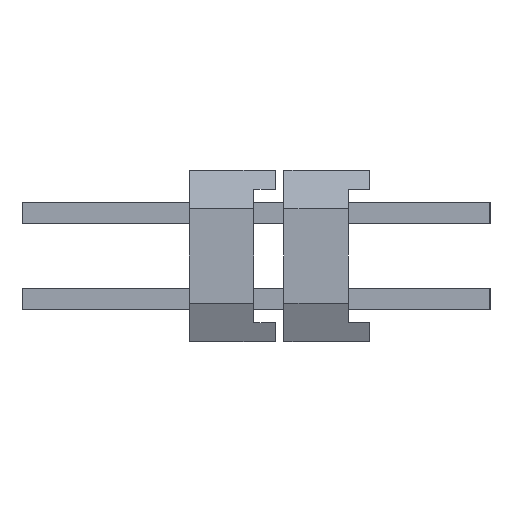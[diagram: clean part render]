
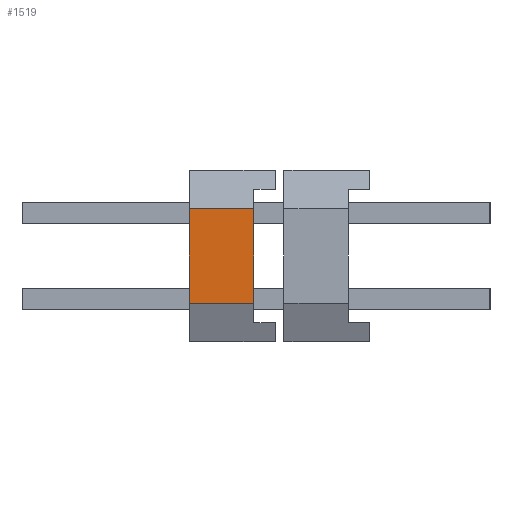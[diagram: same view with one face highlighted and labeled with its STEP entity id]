
A CAD part, left-side view. The second image highlights one B-rep face of the part: STEP entity #1519.
In plain terms, the highlighted planar face has unit normal (-1, 0, 0).
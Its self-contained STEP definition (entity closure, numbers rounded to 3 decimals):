
#112 = ORIENTED_EDGE ( 'NONE', *, *, #7677, .F. ) ;
#257 = FACE_OUTER_BOUND ( 'NONE', #18143, .T. ) ;
#354 = PLANE ( 'NONE',  #8959 ) ;
#538 = DIRECTION ( 'NONE',  ( 1., 0., 0. ) ) ;
#703 = DIRECTION ( 'NONE',  ( 0., 0., -1. ) ) ;
#944 = EDGE_CURVE ( 'NONE', #9337, #8704, #2864, .T. ) ;
#1005 = CARTESIAN_POINT ( 'NONE',  ( -2.072, 0.662, 1.1 ) ) ;
#1270 = VERTEX_POINT ( 'NONE', #1005 ) ;
#1519 = ADVANCED_FACE ( 'NONE', ( #257 ), #354, .F. ) ;
#2367 = EDGE_CURVE ( 'NONE', #9337, #1270, #17907, .T. ) ;
#2704 = CARTESIAN_POINT ( 'NONE',  ( -2.072, -1.838, -1.1 ) ) ;
#2864 = LINE ( 'NONE', #4155, #10781 ) ;
#3307 = VECTOR ( 'NONE', #703, 1000. ) ;
#3556 = CARTESIAN_POINT ( 'NONE',  ( -2.072, 0.662, -1.1 ) ) ;
#4155 = CARTESIAN_POINT ( 'NONE',  ( -2.072, 2.162, 2. ) ) ;
#4694 = VECTOR ( 'NONE', #7214, 1000. ) ;
#7214 = DIRECTION ( 'NONE',  ( 0., -1., 0. ) ) ;
#7356 = CARTESIAN_POINT ( 'NONE',  ( -2.072, 2.162, 2. ) ) ;
#7433 = ORIENTED_EDGE ( 'NONE', *, *, #12259, .T. ) ;
#7453 = DIRECTION ( 'NONE',  ( 0., 1., 0. ) ) ;
#7677 = EDGE_CURVE ( 'NONE', #1270, #11561, #14723, .T. ) ;
#7921 = DIRECTION ( 'NONE',  ( 0., -1., 0. ) ) ;
#8704 = VERTEX_POINT ( 'NONE', #10206 ) ;
#8959 = AXIS2_PLACEMENT_3D ( 'NONE', #7356, #538, #7453 ) ;
#9128 = CARTESIAN_POINT ( 'NONE',  ( -2.072, 2.162, 1.1 ) ) ;
#9337 = VERTEX_POINT ( 'NONE', #11094 ) ;
#10206 = CARTESIAN_POINT ( 'NONE',  ( -2.072, 2.162, -1.1 ) ) ;
#10781 = VECTOR ( 'NONE', #12638, 1000. ) ;
#11094 = CARTESIAN_POINT ( 'NONE',  ( -2.072, 2.162, 1.1 ) ) ;
#11561 = VERTEX_POINT ( 'NONE', #3556 ) ;
#12037 = CARTESIAN_POINT ( 'NONE',  ( -2.072, 0.662, 2. ) ) ;
#12259 = EDGE_CURVE ( 'NONE', #8704, #11561, #12478, .T. ) ;
#12478 = LINE ( 'NONE', #2704, #4694 ) ;
#12638 = DIRECTION ( 'NONE',  ( 0., 0., -1. ) ) ;
#14172 = ORIENTED_EDGE ( 'NONE', *, *, #2367, .F. ) ;
#14723 = LINE ( 'NONE', #12037, #3307 ) ;
#14894 = VECTOR ( 'NONE', #7921, 1000. ) ;
#16302 = ORIENTED_EDGE ( 'NONE', *, *, #944, .T. ) ;
#17907 = LINE ( 'NONE', #9128, #14894 ) ;
#18143 = EDGE_LOOP ( 'NONE', ( #112, #14172, #16302, #7433 ) ) ;
